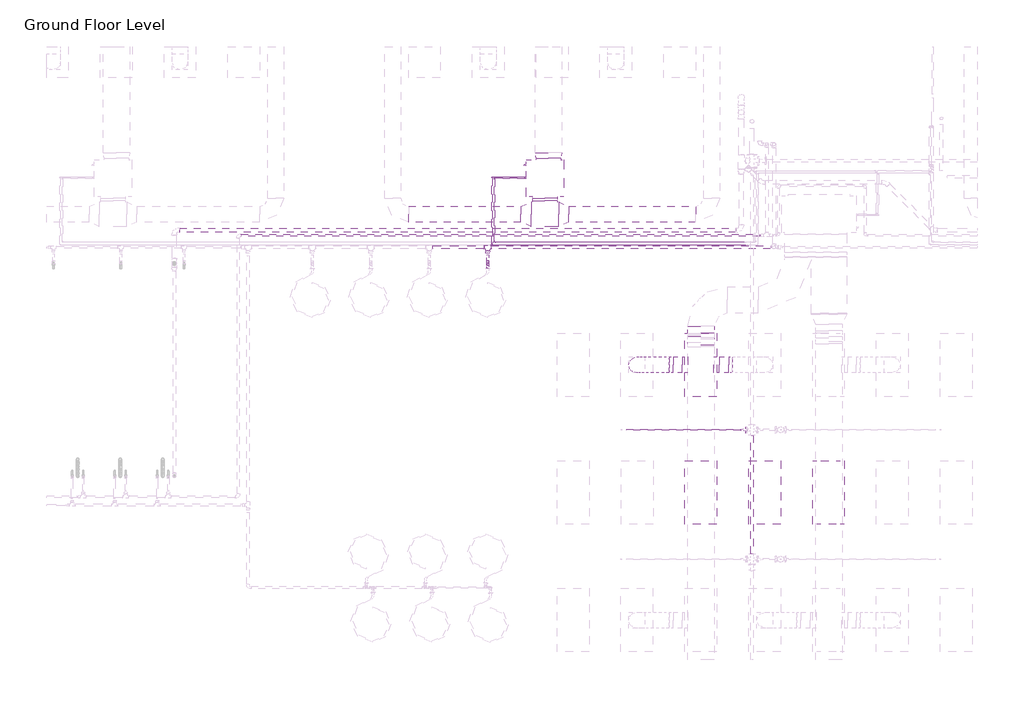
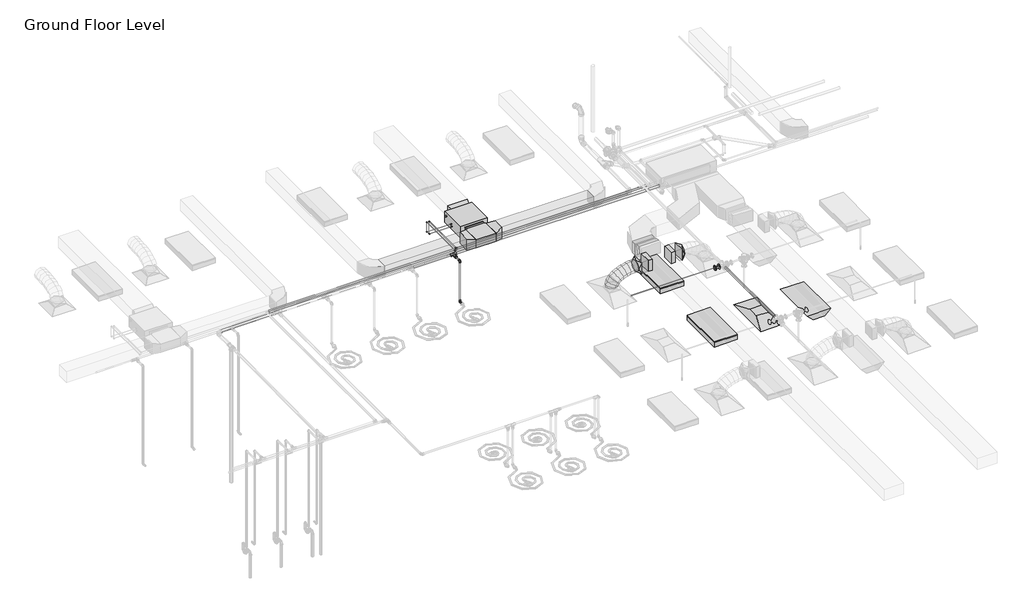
# One storey, part 48 of 74: 17 pipe segments, 11 pipe fittings, 10 duct fittings, 8 duct segments, 3 light fixtures, 1 air terminal, 1 proxy.
"""IFC4 building model written with IfcOpenShell, lengths in millimetres."""

from ifc_helpers import new_model, si_unit, point, frame, frame_2d, origin, place, context, project, spatial, polyline, circle_curve, ellipse_curve, trimmed, segment, composite_curve, outline, extrude, transform, mapped, element, save
from ifc_brep_helpers import plane_surface, cylinder_surface, advanced_brep
from components import m_return_diffuser_1200x600_1200_x_600_face_300_x_300_d1983ef6, fcu_daikin_iu_bad131e0, m_rectangular_takeoff_standard_cb0ccb98, m_rectangular_takeoff_standard_2be5eba1, m_rectangular_tee_standard_fa4de0e8, m_rectangular_transition_angle_45_degree_5a11b24e, m_rectangular_transition_angle_45_degree_27e6000f, m_rectangular_transition_angle_45_degree_1c32c0a1, m_rectangular_transition_angle_45_degree_6e5ad010, m_rectangular_to_round_transition_angle_45_degree_641efff0, m_emergency_recessed_lighting_fixture_600x1200_277_5b10b25d, m_troffer_light_parabolic_rectangular1_0600x1200mm_4_lamp_86473d4a, m_elbow_generic_standard_a088f956, m_elbow_generic_standard_2a704253, m_elbow_generic_standard_6b1a80c6, m_elbow_generic_standard_5542be81, m_reducer_flanged_cs_class_150_standard_83138b42, m_tee_generic_standard_5b2ed4d4, m_tee_generic_standard_25a94648, standard_517a5a8d, standard_cd25fed3, standard_f1337950

model = new_model("IFC4")

# Units and contexts
model_context = context("Model", 3, world=origin())
ifc_project = project(units=[si_unit("LENGTHUNIT", "METRE", prefix="MILLI")], contexts=[model_context])

# Site, building, storey
site = spatial("IfcSite", under=ifc_project)
building = spatial("IfcBuilding", under=site)
storey = spatial("IfcBuildingStorey", under=building, Name="Ground Floor Level", Elevation=900.0)

# Air terminal
placement = place(None, origin())
m_return_diffuser_1200x600_1200_x_600_face_300_x_300_shape = m_return_diffuser_1200x600_1200_x_600_face_300_x_300_d1983ef6(model_context)
element("IfcAirTerminal", 1, ObjectType="M_Return Diffuser 1200x600 : 1200 x 600 Face 300 x 300 Connection", at=placement, inside=storey, context=model_context, shape_type="MappedRepresentation", body=[
    mapped(m_return_diffuser_1200x600_1200_x_600_face_300_x_300_shape, transform((-5737.2327605, 8835.2153534, 3650.0), x_axis=(0.0, 1.0, 0.0), y_axis=(-1.0, 0.0, 0.0), z_axis=(0.0, 0.0, 1.0))),
])

# Proxy
fcu_daikin_iu_shape = fcu_daikin_iu_bad131e0(model_context)
element("IfcBuildingElementProxy", 2, Name="FCU-DAIKIN IU : 4.5kW, 230V/50Hz/1Ph", ObjectType="FCU-DAIKIN IU : 4.5kW, 230V/50Hz/1Ph", at=placement, inside=storey, context=model_context, shape_type="MappedRepresentation", body=[
    mapped(fcu_daikin_iu_shape, transform((-9872.2327605, 14745.2153534, 3934.0872564), x_axis=(-1.0, 0.0, 0.0), y_axis=(0.0, -1.0, 0.0), z_axis=(0.0, 0.0, 1.0))),
])

# Duct fittings
m_rectangular_takeoff_standard_shape = m_rectangular_takeoff_standard_cb0ccb98(model_context)
element("IfcDuctFitting", 3, ObjectType="M_Rectangular Takeoff : Standard", at=placement, inside=storey, context=model_context, shape_type="MappedRepresentation", body=[
    mapped(m_rectangular_takeoff_standard_shape, transform((-6689.6910789, 11235.2153534, 4150.0), x_axis=(1.0, 0.0, 0.0), y_axis=(0.0, -1.0, 0.0), z_axis=(0.0, 0.0, -1.0))),
])
m_rectangular_takeoff_standard_2_shape = m_rectangular_takeoff_standard_2be5eba1(model_context)
element("IfcDuctFitting", 4, ObjectType="M_Rectangular Takeoff : Standard", at=placement, inside=storey, context=model_context, shape_type="MappedRepresentation", body=[
    mapped(m_rectangular_takeoff_standard_2_shape, transform((-7189.6910789, 11235.2153534, 4150.0), x_axis=(-1.0, 0.0, 0.0), y_axis=(0.0, 1.0, 0.0), z_axis=(0.0, 0.0, -1.0))),
])
m_rectangular_tee_standard_shape = m_rectangular_tee_standard_fa4de0e8(model_context)
element("IfcDuctFitting", 5, ObjectType="M_Rectangular Tee : Standard", at=placement, inside=storey, context=model_context, shape_type="MappedRepresentation", body=[
    mapped(m_rectangular_tee_standard_shape, transform((-9872.2327605, 14069.8153534, 4075.2872564), x_axis=(-1.0, 0.0, 0.0), y_axis=(0.0, -1.0, 0.0), z_axis=(0.0, 0.0, 1.0))),
])
m_rectangular_transition_angle_45_degree_shape = m_rectangular_transition_angle_45_degree_5a11b24e(model_context)
element("IfcDuctFitting", 6, ObjectType="M_Rectangular Transition - Angle : 45 Degree", at=placement, inside=storey, context=model_context, shape_type="MappedRepresentation", body=[
    mapped(m_rectangular_transition_angle_45_degree_shape, transform((-9808.7327605, 15120.6153534, 4099.9997564), x_axis=(0.0, 1.0, 0.0), y_axis=(-1.0, 0.0, 0.0), z_axis=(0.0, 0.0, 1.0))),
])
m_rectangular_transition_angle_45_degree_2_shape = m_rectangular_transition_angle_45_degree_27e6000f(model_context)
element("IfcDuctFitting", 7, ObjectType="M_Rectangular Transition - Angle : 45 Degree", at=placement, inside=storey, context=model_context, shape_type="MappedRepresentation", body=[
    mapped(m_rectangular_transition_angle_45_degree_2_shape, transform((-9872.2327605, 14369.8153534, 4075.2872564), x_axis=(0.0, -1.0, 0.0), y_axis=(1.0, 0.0, 0.0), z_axis=(0.0, 0.0, 1.0))),
])
m_rectangular_transition_angle_45_degree_3_shape = m_rectangular_transition_angle_45_degree_1c32c0a1(model_context)
element("IfcDuctFitting", 8, ObjectType="M_Rectangular Transition - Angle : 45 Degree", at=placement, inside=storey, context=model_context, shape_type="MappedRepresentation", body=[
    mapped(m_rectangular_transition_angle_45_degree_3_shape, transform((-9872.2327605, 14326.1149854, 4075.2872564), x_axis=(0.0, -1.0, 0.0), y_axis=(1.0, 0.0, 0.0), z_axis=(0.0, 0.0, 1.0))),
])
m_rectangular_transition_angle_45_degree_4_shape = m_rectangular_transition_angle_45_degree_6e5ad010(model_context)
element("IfcDuctFitting", 9, ObjectType="M_Rectangular Transition - Angle : 45 Degree", at=placement, inside=storey, context=model_context, shape_type="MappedRepresentation", body=[
    mapped(m_rectangular_transition_angle_45_degree_4_shape, transform((-10128.1702605, 14069.8153534, 4075.2872564), x_axis=(-1.0, 0.0, 0.0), y_axis=(0.0, -1.0, 0.0), z_axis=(0.0, 0.0, 1.0))),
])
element("IfcDuctFitting", 10, ObjectType="M_Rectangular Transition - Angle : 45 Degree", at=placement, inside=storey, context=model_context, shape_type="MappedRepresentation", body=[
    mapped(m_rectangular_transition_angle_45_degree_4_shape, transform((-9616.2952605, 14069.8153534, 4075.2872564), x_axis=(1.0, 0.0, 0.0), y_axis=(0.0, 1.0, 0.0), z_axis=(0.0, 0.0, 1.0))),
])
m_rectangular_to_round_transition_angle_45_degree_shape = m_rectangular_to_round_transition_angle_45_degree_641efff0(model_context)
element("IfcDuctFitting", 11, ObjectType="M_Rectangular to Round Transition - Angle : 45 Degree", at=placement, inside=storey, context=model_context, shape_type="MappedRepresentation", body=[
    mapped(m_rectangular_to_round_transition_angle_45_degree_shape, transform((-7461.2487616, 11235.2153534, 4150.0), x_axis=(-1.0, 0.0, 0.0), y_axis=(0.0, -1.0, 0.0), z_axis=(0.0, 0.0, 1.0))),
])
element("IfcDuctFitting", 12, ObjectType="M_Rectangular to Round Transition - Angle : 45 Degree", at=placement, inside=storey, context=model_context, shape_type="MappedRepresentation", body=[
    mapped(m_rectangular_to_round_transition_angle_45_degree_shape, transform((-6418.6686918, 11235.2153534, 4150.0), x_axis=(1.0, 0.0, 0.0), y_axis=(0.0, 1.0, 0.0), z_axis=(0.0, 0.0, 1.0))),
])

# Duct segments
element("IfcDuctSegment", 13, ObjectType="Flex - Round", at=placement, inside=storey, context=model_context, shape_type="AdvancedBrep", body=[
    advanced_brep(
    [(-7992.6846929, 11235.2153534, 3826.6), (-8142.6846929, 11085.2153534, 3826.6), (-8292.6846929, 11235.2153534, 3826.6), (-8142.6846929, 11385.2153534, 3826.6), (-7992.6846929, 11235.2153534, 3832.4838104), (-8142.6846929, 11085.2153534, 3857.3049615), (-8292.6846929, 11235.2153534, 3882.1261126), (-8142.6846929, 11385.2153534, 3857.3049615), (-7990.555208, 11235.2153534, 3838.7421096), (-8126.0232883, 11085.2153534, 3906.2708192), (-8261.4913687, 11235.2153534, 3973.7995287), (-8126.0232883, 11385.2153534, 3906.2708192), (-7968.5331802, 11235.2153534, 3871.1472855), (-8080.1452707, 11085.2153534, 3973.7798261), (-8191.7573612, 11235.2153534, 4076.4123668), (-8080.1452707, 11385.2153534, 3973.7798261), (-7928.5904556, 11235.2153534, 3903.4915826), (-8011.2099341, 11085.2153534, 4029.6013814), (-8093.8294126, 11235.2153534, 4155.7111802), (-8011.2099341, 11385.2153534, 4029.6013814), (-7865.6682729, 11235.2153534, 3936.1928758), (-7925.3765727, 11085.2153534, 4074.2098454), (-7985.0848725, 11235.2153534, 4212.226815), (-7925.3765727, 11385.2153534, 4074.2098454), (-7786.815881, 11235.2153534, 3963.8479616), (-7828.8044806, 11085.2153534, 4108.0795788), (-7870.7930803, 11235.2153534, 4252.311196), (-7828.8044806, 11385.2153534, 4108.0795788), (-7700.2438983, 11235.2153534, 3984.0509494), (-7727.652952, 11085.2153534, 4131.684942), (-7755.0620057, 11235.2153534, 4279.3189347), (-7727.652952, 11385.2153534, 4131.684942), (-7613.759715, 11235.2153534, 3996.0504424), (-7628.081281, 11085.2153534, 4145.5002956), (-7642.4028469, 11235.2153534, 4294.9501488), (-7628.081281, 11385.2153534, 4145.5002956), (-7539.5984134, 11235.2153534, 4000.0), (-7543.5898089, 11085.2153534, 4150.0), (-7547.5812043, 11235.2153534, 4300.0), (-7543.5898089, 11385.2153534, 4150.0), (-7536.2487616, 11235.2153534, 4000.0), (-7536.2487616, 11385.2153534, 4150.0), (-7536.2487616, 11235.2153534, 4300.0), (-7536.2487616, 11085.2153534, 4150.0)],
    [
        (0, 1, circle_curve(frame((-8142.6846929, 11235.2153534, 3826.6), z_axis=(0.0, 0.0, -1.0), x_axis=(1.0, 0.0, 0.0)), 150.0)),
        (1, 2, circle_curve(frame((-8142.6846929, 11235.2153534, 3826.6), z_axis=(0.0, 0.0, -1.0), x_axis=(1.0, 0.0, 0.0)), 150.0)),
        (2, 3, circle_curve(frame((-8142.6846929, 11235.2153534, 3826.6), z_axis=(0.0, 0.0, -1.0), x_axis=(1.0, 0.0, 0.0)), 150.0)),
        (3, 0, circle_curve(frame((-8142.6846929, 11235.2153534, 3826.6), z_axis=(0.0, 0.0, -1.0), x_axis=(1.0, 0.0, 0.0)), 150.0)),
        (0, 4),
        (4, 5, ellipse_curve(frame((-8142.6846929, 11235.2153534, 3857.3049615), z_axis=(-0.1632543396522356, 0.0, -0.9865840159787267), x_axis=(0.9865840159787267, 0.0, -0.16325433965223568)), 152.039763, 150.0)),
        (5, 1),
        (5, 6, ellipse_curve(frame((-8142.6846929, 11235.2153534, 3857.3049615), z_axis=(-0.1632543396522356, 0.0, -0.9865840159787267), x_axis=(0.9865840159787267, 0.0, -0.16325433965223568)), 152.039763, 150.0)),
        (6, 2),
        (6, 7, ellipse_curve(frame((-8142.6846929, 11235.2153534, 3857.3049615), z_axis=(-0.1632543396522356, 0.0, -0.9865840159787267), x_axis=(0.9865840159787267, 0.0, -0.16325433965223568)), 152.039763, 150.0)),
        (7, 3),
        (7, 4, ellipse_curve(frame((-8142.6846929, 11235.2153534, 3857.3049615), z_axis=(-0.1632543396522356, 0.0, -0.9865840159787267), x_axis=(0.9865840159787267, 0.0, -0.16325433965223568)), 152.039763, 150.0)),
        (4, 8),
        (8, 9, ellipse_curve(frame((-8126.0232883, 11235.2153534, 3906.2708192), z_axis=(-0.4461280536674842, 0.0, -0.8949691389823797), x_axis=(0.8949691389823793, 0.0, -0.4461280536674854)), 151.366203, 150.0)),
        (9, 5),
        (9, 10, ellipse_curve(frame((-8126.0232883, 11235.2153534, 3906.2708192), z_axis=(-0.4461280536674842, 0.0, -0.8949691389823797), x_axis=(0.8949691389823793, 0.0, -0.4461280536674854)), 151.366203, 150.0)),
        (10, 6),
        (10, 11, ellipse_curve(frame((-8126.0232883, 11235.2153534, 3906.2708192), z_axis=(-0.4461280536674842, 0.0, -0.8949691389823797), x_axis=(0.8949691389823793, 0.0, -0.4461280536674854)), 151.366203, 150.0)),
        (11, 7),
        (11, 8, ellipse_curve(frame((-8126.0232883, 11235.2153534, 3906.2708192), z_axis=(-0.4461280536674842, 0.0, -0.8949691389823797), x_axis=(0.8949691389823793, 0.0, -0.4461280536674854)), 151.366203, 150.0)),
        (8, 12),
        (12, 13, ellipse_curve(frame((-8080.1452707, 11235.2153534, 3973.7798261), z_axis=(-0.676875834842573, 0.0, -0.7360972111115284), x_axis=(0.7360972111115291, 0.0, -0.6768758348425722)), 151.6268352, 150.0)),
        (13, 9),
        (13, 14, ellipse_curve(frame((-8080.1452707, 11235.2153534, 3973.7798261), z_axis=(-0.676875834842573, 0.0, -0.7360972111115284), x_axis=(0.7360972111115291, 0.0, -0.6768758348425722)), 151.6268352, 150.0)),
        (14, 10),
        (14, 15, ellipse_curve(frame((-8080.1452707, 11235.2153534, 3973.7798261), z_axis=(-0.676875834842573, 0.0, -0.7360972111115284), x_axis=(0.7360972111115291, 0.0, -0.6768758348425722)), 151.6268352, 150.0)),
        (15, 11),
        (15, 12, ellipse_curve(frame((-8080.1452707, 11235.2153534, 3973.7798261), z_axis=(-0.676875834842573, 0.0, -0.7360972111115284), x_axis=(0.7360972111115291, 0.0, -0.6768758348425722)), 151.6268352, 150.0)),
        (12, 16),
        (16, 17, ellipse_curve(frame((-8011.2099341, 11235.2153534, 4029.6013814), z_axis=(-0.8364738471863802, 0.0, -0.5480068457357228), x_axis=(0.5480068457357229, 0.0, -0.8364738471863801)), 150.7635884, 150.0)),
        (17, 13),
        (17, 18, ellipse_curve(frame((-8011.2099341, 11235.2153534, 4029.6013814), z_axis=(-0.8364738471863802, 0.0, -0.5480068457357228), x_axis=(0.5480068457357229, 0.0, -0.8364738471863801)), 150.7635884, 150.0)),
        (18, 14),
        (18, 19, ellipse_curve(frame((-8011.2099341, 11235.2153534, 4029.6013814), z_axis=(-0.8364738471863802, 0.0, -0.5480068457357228), x_axis=(0.5480068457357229, 0.0, -0.8364738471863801)), 150.7635884, 150.0)),
        (19, 15),
        (19, 16, ellipse_curve(frame((-8011.2099341, 11235.2153534, 4029.6013814), z_axis=(-0.8364738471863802, 0.0, -0.5480068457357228), x_axis=(0.5480068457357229, 0.0, -0.8364738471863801)), 150.7635884, 150.0)),
        (16, 20),
        (20, 21, ellipse_curve(frame((-7925.3765727, 11235.2153534, 4074.2098454), z_axis=(-0.917795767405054, 0.0, -0.3970528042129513), x_axis=(0.3970528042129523, 0.0, -0.9177957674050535)), 150.3787384, 150.0)),
        (21, 17),
        (21, 22, ellipse_curve(frame((-7925.3765727, 11235.2153534, 4074.2098454), z_axis=(-0.917795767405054, 0.0, -0.3970528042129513), x_axis=(0.3970528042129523, 0.0, -0.9177957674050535)), 150.3787384, 150.0)),
        (22, 18),
        (22, 23, ellipse_curve(frame((-7925.3765727, 11235.2153534, 4074.2098454), z_axis=(-0.917795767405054, 0.0, -0.3970528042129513), x_axis=(0.3970528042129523, 0.0, -0.9177957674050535)), 150.3787384, 150.0)),
        (23, 19),
        (23, 20, ellipse_curve(frame((-7925.3765727, 11235.2153534, 4074.2098454), z_axis=(-0.917795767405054, 0.0, -0.3970528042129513), x_axis=(0.3970528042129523, 0.0, -0.9177957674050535)), 150.3787384, 150.0)),
        (20, 24),
        (24, 25, ellipse_curve(frame((-7828.8044806, 11235.2153534, 4108.0795788), z_axis=(-0.9601411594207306, 0.0, -0.2795155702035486), x_axis=(0.27951557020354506, 0.0, -0.9601411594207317)), 150.2191795, 150.0)),
        (25, 21),
        (25, 26, ellipse_curve(frame((-7828.8044806, 11235.2153534, 4108.0795788), z_axis=(-0.9601411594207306, 0.0, -0.2795155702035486), x_axis=(0.27951557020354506, 0.0, -0.9601411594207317)), 150.2191795, 150.0)),
        (26, 22),
        (26, 27, ellipse_curve(frame((-7828.8044806, 11235.2153534, 4108.0795788), z_axis=(-0.9601411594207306, 0.0, -0.2795155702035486), x_axis=(0.27951557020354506, 0.0, -0.9601411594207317)), 150.2191795, 150.0)),
        (27, 23),
        (27, 24, ellipse_curve(frame((-7828.8044806, 11235.2153534, 4108.0795788), z_axis=(-0.9601411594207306, 0.0, -0.2795155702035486), x_axis=(0.27951557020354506, 0.0, -0.9601411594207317)), 150.2191795, 150.0)),
        (24, 28),
        (28, 29, ellipse_curve(frame((-7727.652952, 11235.2153534, 4131.684942), z_axis=(-0.9831991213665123, 0.0, -0.1825362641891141), x_axis=(0.18253626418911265, 0.0, -0.9831991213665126)), 150.1567581, 150.0)),
        (29, 25),
        (29, 30, ellipse_curve(frame((-7727.652952, 11235.2153534, 4131.684942), z_axis=(-0.9831991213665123, 0.0, -0.1825362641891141), x_axis=(0.18253626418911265, 0.0, -0.9831991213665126)), 150.1567581, 150.0)),
        (30, 26),
        (30, 31, ellipse_curve(frame((-7727.652952, 11235.2153534, 4131.684942), z_axis=(-0.9831991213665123, 0.0, -0.1825362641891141), x_axis=(0.18253626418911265, 0.0, -0.9831991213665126)), 150.1567581, 150.0)),
        (31, 27),
        (31, 28, ellipse_curve(frame((-7727.652952, 11235.2153534, 4131.684942), z_axis=(-0.9831991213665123, 0.0, -0.1825362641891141), x_axis=(0.18253626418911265, 0.0, -0.9831991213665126)), 150.1567581, 150.0)),
        (28, 32),
        (32, 33, ellipse_curve(frame((-7628.081281, 11235.2153534, 4145.5002956), z_axis=(-0.9954398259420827, 0.0, -0.09539157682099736), x_axis=(0.09539157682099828, 0.0, -0.9954398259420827)), 150.1344926, 150.0)),
        (33, 29),
        (33, 34, ellipse_curve(frame((-7628.081281, 11235.2153534, 4145.5002956), z_axis=(-0.9954398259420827, 0.0, -0.09539157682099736), x_axis=(0.09539157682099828, 0.0, -0.9954398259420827)), 150.1344926, 150.0)),
        (34, 30),
        (34, 35, ellipse_curve(frame((-7628.081281, 11235.2153534, 4145.5002956), z_axis=(-0.9954398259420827, 0.0, -0.09539157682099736), x_axis=(0.09539157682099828, 0.0, -0.9954398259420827)), 150.1344926, 150.0)),
        (35, 31),
        (35, 32, ellipse_curve(frame((-7628.081281, 11235.2153534, 4145.5002956), z_axis=(-0.9954398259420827, 0.0, -0.09539157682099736), x_axis=(0.09539157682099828, 0.0, -0.9954398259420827)), 150.1344926, 150.0)),
        (32, 36),
        (36, 37, ellipse_curve(frame((-7543.5898089, 11235.2153534, 4150.0), z_axis=(-0.9996461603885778, 0.0, -0.026599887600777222), x_axis=(0.026599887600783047, 0.0, -0.9996461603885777)), 150.0530947, 150.0)),
        (37, 33),
        (37, 38, ellipse_curve(frame((-7543.5898089, 11235.2153534, 4150.0), z_axis=(-0.9996461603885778, 0.0, -0.026599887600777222), x_axis=(0.026599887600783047, 0.0, -0.9996461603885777)), 150.0530947, 150.0)),
        (38, 34),
        (38, 39, ellipse_curve(frame((-7543.5898089, 11235.2153534, 4150.0), z_axis=(-0.9996461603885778, 0.0, -0.026599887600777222), x_axis=(0.026599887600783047, 0.0, -0.9996461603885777)), 150.0530947, 150.0)),
        (39, 35),
        (39, 36, ellipse_curve(frame((-7543.5898089, 11235.2153534, 4150.0), z_axis=(-0.9996461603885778, 0.0, -0.026599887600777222), x_axis=(0.026599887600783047, 0.0, -0.9996461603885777)), 150.0530947, 150.0)),
        (40, 41, circle_curve(frame((-7536.2487616, 11235.2153534, 4150.0), z_axis=(1.0, 0.0, 0.0), x_axis=(0.0, 0.0, -1.0)), 150.0)),
        (41, 42, circle_curve(frame((-7536.2487616, 11235.2153534, 4150.0), z_axis=(1.0, 0.0, 0.0), x_axis=(0.0, 0.0, -1.0)), 150.0)),
        (42, 43, circle_curve(frame((-7536.2487616, 11235.2153534, 4150.0), z_axis=(1.0, 0.0, 0.0), x_axis=(0.0, 0.0, -1.0)), 150.0)),
        (43, 40, circle_curve(frame((-7536.2487616, 11235.2153534, 4150.0), z_axis=(1.0, 0.0, 0.0), x_axis=(0.0, 0.0, -1.0)), 150.0)),
        (36, 40),
        (43, 37),
        (42, 38),
        (41, 39),
    ],
    [
        plane_surface(frame((-8142.6846929, 11085.2153534, 3826.6), z_axis=(0.0, 0.0, -1.0), x_axis=(1.0, 0.0, 0.0))),
        cylinder_surface(frame((-8142.6846929, 11235.2153534, 3826.6), z_axis=(0.0, 0.0, -1.0), x_axis=(1.0, 0.0, 0.0)), 150.0),
        cylinder_surface(frame((-8142.6846929, 11235.2153534, 3857.3049615), z_axis=(-0.32212824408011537, 0.0, -0.946696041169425), x_axis=(0.946696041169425, 0.0, -0.32212824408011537)), 150.0),
        cylinder_surface(frame((-8126.0232883, 11235.2153534, 3906.2708192), z_axis=(-0.5620745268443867, 0.0, -0.8270865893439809), x_axis=(0.8270865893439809, 0.0, -0.5620745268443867)), 150.0),
        cylinder_surface(frame((-8080.1452707, 11235.2153534, 3973.7798261), z_axis=(-0.777152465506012, 0.0, -0.6293123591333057), x_axis=(0.6293123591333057, 0.0, -0.777152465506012)), 150.0),
        cylinder_surface(frame((-8011.2099341, 11235.2153534, 4029.6013814), z_axis=(-0.887322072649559, 0.0, -0.4611502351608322), x_axis=(0.4611502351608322, 0.0, -0.887322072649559)), 150.0),
        cylinder_surface(frame((-7925.3765727, 11235.2153534, 4074.2098454), z_axis=(-0.9436464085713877, 0.0, -0.3309553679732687), x_axis=(0.3309553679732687, 0.0, -0.9436464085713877)), 150.0),
        cylinder_surface(frame((-7828.8044806, 11235.2153534, 4108.0795788), z_axis=(-0.9738340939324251, 0.0, -0.2272601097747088), x_axis=(0.2272601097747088, 0.0, -0.9738340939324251)), 150.0),
        cylinder_surface(frame((-7727.652952, 11235.2153534, 4131.684942), z_axis=(-0.9905113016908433, 0.0, -0.1374312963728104), x_axis=(0.1374312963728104, 0.0, -0.9905113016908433)), 150.0),
        cylinder_surface(frame((-7628.081281, 11235.2153534, 4145.5002956), z_axis=(-0.998584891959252, 0.0, -0.05318095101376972), x_axis=(0.05318095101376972, 0.0, -0.998584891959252)), 150.0),
        plane_surface(frame((-7536.2487616, 11235.2153534, 4000.0), z_axis=(1.0, 0.0, 0.0), x_axis=(0.0, 1.0, 0.0))),
        cylinder_surface(frame((-7543.5898089, 11235.2153534, 4150.0), z_axis=(-1.0, 0.0, 0.0), x_axis=(0.0, 0.0, -1.0)), 150.0),
    ],
    [
        (0, [[1, 2, 3, 4]]),
        (1, [[-1, 5, 6, 7]]),
        (1, [[-2, -7, 8, 9]]),
        (1, [[-3, -9, 10, 11]]),
        (1, [[-4, -11, 12, -5]]),
        (2, [[-6, 13, 14, 15]]),
        (2, [[-8, -15, 16, 17]]),
        (2, [[-10, -17, 18, 19]]),
        (2, [[-12, -19, 20, -13]]),
        (3, [[-14, 21, 22, 23]]),
        (3, [[-16, -23, 24, 25]]),
        (3, [[-18, -25, 26, 27]]),
        (3, [[-20, -27, 28, -21]]),
        (4, [[-22, 29, 30, 31]]),
        (4, [[-24, -31, 32, 33]]),
        (4, [[-26, -33, 34, 35]]),
        (4, [[-28, -35, 36, -29]]),
        (5, [[-30, 37, 38, 39]]),
        (5, [[-32, -39, 40, 41]]),
        (5, [[-34, -41, 42, 43]]),
        (5, [[-36, -43, 44, -37]]),
        (6, [[-38, 45, 46, 47]]),
        (6, [[-40, -47, 48, 49]]),
        (6, [[-42, -49, 50, 51]]),
        (6, [[-44, -51, 52, -45]]),
        (7, [[-46, 53, 54, 55]]),
        (7, [[-48, -55, 56, 57]]),
        (7, [[-50, -57, 58, 59]]),
        (7, [[-52, -59, 60, -53]]),
        (8, [[-54, 61, 62, 63]]),
        (8, [[-56, -63, 64, 65]]),
        (8, [[-58, -65, 66, 67]]),
        (8, [[-60, -67, 68, -61]]),
        (9, [[-62, 69, 70, 71]]),
        (9, [[-64, -71, 72, 73]]),
        (9, [[-66, -73, 74, 75]]),
        (9, [[-68, -75, 76, -69]]),
        (10, [[77, 78, 79, 80]]),
        (11, [[-70, 81, -80, 82]]),
        (11, [[-72, -82, -79, 83]]),
        (11, [[-74, -83, -78, 84]]),
        (11, [[-76, -84, -77, -81]]),
    ],
),
])
element("IfcDuctSegment", 14, ObjectType="Radius Elbows / Taps", at=placement, inside=storey, context=model_context, shape_type="SweptSolid", body=[
    extrude(outline(polyline([(-9420.8948503, 13919.8153534), (-9420.8948503, 14219.8153534), (-7037.2327605, 14219.8153534), (-7037.2327605, 13919.8153534), (-9420.8948503, 13919.8153534)])), frame((0.0, 0.0, 3925.2872564), z_axis=(0.0, 0.0, 1.0), x_axis=(1.0, 0.0, 0.0)), (0.0, 0.0, 1.0), 300.0),
])
element("IfcDuctSegment", 15, ObjectType="Radius Elbows / Taps", at=placement, inside=storey, context=model_context, shape_type="SweptSolid", body=[
    extrude(outline(polyline([(-12437.2327605, 13919.8153534), (-12437.2327605, 14219.8153534), (-10323.5706707, 14219.8153534), (-10323.5706707, 13919.8153534), (-12437.2327605, 13919.8153534)])), frame((0.0, 0.0, 3925.2872564), z_axis=(0.0, 0.0, 1.0), x_axis=(1.0, 0.0, 0.0)), (0.0, 0.0, 1.0), 300.0),
])
element("IfcDuctSegment", 16, ObjectType="Radius Elbows / Taps", at=placement, inside=storey, context=model_context, shape_type="SweptSolid", body=[
    extrude(outline(polyline([(-10103.2327605, 14369.4532214), (-9641.2327605, 14369.4532214), (-9641.2327605, 14326.1149854), (-10103.2327605, 14326.1149854), (-10103.2327605, 14369.4532214)])), frame((0.0, 0.0, 3968.2872564), z_axis=(0.0, 0.0, 1.0), x_axis=(1.0, 0.0, 0.0)), (0.0, 0.0, 1.0), 214.0),
])
element("IfcDuctSegment", 17, ObjectType="Radius Elbows / Taps", at=placement, inside=storey, context=model_context, shape_type="SweptSolid", body=[
    extrude(outline(polyline([(-7291.2910789, 11385.2153534), (-7291.2910789, 11085.2153534), (-7461.2487616, 11085.2153534), (-7461.2487616, 11385.2153534), (-7291.2910789, 11385.2153534)])), frame((0.0, 0.0, 4000.0), z_axis=(0.0, 0.0, 1.0), x_axis=(1.0, 0.0, 0.0)), (0.0, 0.0, 1.0), 300.0),
])
element("IfcDuctSegment", 18, ObjectType="Radius Elbows / Taps", at=placement, inside=storey, context=model_context, shape_type="SweptSolid", body=[
    extrude(outline(polyline([(-6588.0910789, 11085.2153534), (-6588.0910789, 11385.2153534), (-6418.6686918, 11385.2153534), (-6418.6686918, 11085.2153534), (-6588.0910789, 11085.2153534)])), frame((0.0, 0.0, 4000.0), z_axis=(0.0, 0.0, 1.0), x_axis=(1.0, 0.0, 0.0)), (0.0, 0.0, 1.0), 300.0),
])
element("IfcDuctSegment", 19, ObjectType="Radius Elbows / Taps", at=placement, inside=storey, context=model_context, shape_type="SweptSolid", body=[
    extrude(outline(polyline([(-7189.6912607, 11959.4153535), (-6689.6912607, 11959.4153535), (-6689.6912607, 11830.1369759), (-7189.6912607, 11830.1369759), (-7189.6912607, 11959.4153535)])), frame((0.0, 0.0, 3957.1399598), z_axis=(0.0, 0.0, 1.0), x_axis=(1.0, 0.0, 0.0)), (0.0, 0.0, 1.0), 300.0),
])
element("IfcDuctSegment", 20, ObjectType="Radius Elbows / Taps", at=placement, inside=storey, context=model_context, shape_type="SweptSolid", body=[
    extrude(outline(polyline([(-1e-07, -500.0), (0.0, 0.0), (119.6684185, 0.0), (119.6684185, -500.0), (-1e-07, -500.0)])), frame((-7189.6911044, 11604.9664123, 3997.3602654), z_axis=(0.0, 0.186781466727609, 0.9824014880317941), x_axis=(-9.034404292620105e-07, 0.982401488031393, -0.18678146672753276)), (0.0, 0.0, 1.0), 300.0),
])

# Light fixtures
m_emergency_recessed_lighting_fixture_600x1200_277_shape = m_emergency_recessed_lighting_fixture_600x1200_277_5b10b25d(model_context)
element("IfcLightFixture", 21, ObjectType="M_Emergency Recessed Lighting Fixture : 600x1200 - 277", at=placement, inside=storey, context=model_context, shape_type="MappedRepresentation", body=[
    mapped(m_emergency_recessed_lighting_fixture_600x1200_277_shape, transform((-4837.2327605, 8235.2153534, 3650.0), x_axis=(0.0, 1.0, 0.0), y_axis=(-1.0, 0.0, 0.0), z_axis=(0.0, 0.0, 1.0))),
])
m_troffer_light_parabolic_rectangular1_0600x1200mm_4_lamp_shape = m_troffer_light_parabolic_rectangular1_0600x1200mm_4_lamp_86473d4a(model_context)
element("IfcLightFixture", 22, ObjectType="M_Troffer Light - Parabolic Rectangular1 : 0600x1200mm(4 Lamp) - 277V 2", at=placement, inside=storey, context=model_context, shape_type="MappedRepresentation", body=[
    mapped(m_troffer_light_parabolic_rectangular1_0600x1200mm_4_lamp_shape, transform((-6996.6986926, 11253.918855, 3650.0), x_axis=(0.0, 1.0, 0.0), y_axis=(-1.0, 0.0, 0.0), z_axis=(0.0, 0.0, 1.0))),
])
element("IfcLightFixture", 23, ObjectType="M_Troffer Light - Parabolic Rectangular1 : 0600x1200mm(4 Lamp) - 277V 2", at=placement, inside=storey, context=model_context, shape_type="MappedRepresentation", body=[
    mapped(m_troffer_light_parabolic_rectangular1_0600x1200mm_4_lamp_shape, transform((-6996.6986926, 8853.918855, 3650.0), x_axis=(0.0, 1.0, 0.0), y_axis=(-1.0, 0.0, 0.0), z_axis=(0.0, 0.0, 1.0))),
])

# Pipe fittings
m_elbow_generic_standard_shape = m_elbow_generic_standard_a088f956(model_context)
element("IfcPipeFitting", 24, ObjectType="M_Elbow - Generic : Standard", at=placement, inside=storey, context=model_context, shape_type="MappedRepresentation", body=[
    mapped(m_elbow_generic_standard_shape, transform((-10820.3327605, 14745.2153534, 4380.0), x_axis=(0.0, 0.0, 1.0), y_axis=(0.0, -1.0, 0.0), z_axis=(1.0, 0.0, 0.0))),
])
m_elbow_generic_standard_2_shape = m_elbow_generic_standard_2a704253(model_context)
element("IfcPipeFitting", 25, ObjectType="M_Elbow - Generic : Standard", at=placement, inside=storey, context=model_context, shape_type="MappedRepresentation", body=[
    mapped(m_elbow_generic_standard_2_shape, transform((-10870.0192947, 14770.2153534, 4365.0), x_axis=(0.0, 0.0, 1.0), y_axis=(0.0, -1.0, 0.0), z_axis=(1.0, 0.0, 0.0))),
])
m_elbow_generic_standard_3_shape = m_elbow_generic_standard_6b1a80c6(model_context)
element("IfcPipeFitting", 26, ObjectType="M_Elbow - Generic : Standard", at=placement, inside=storey, context=model_context, shape_type="MappedRepresentation", body=[
    mapped(m_elbow_generic_standard_3_shape, transform((-10820.3359808, 14745.2153534, 4034.0996164), x_axis=(-0.9999999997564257, 0.0, 2.2071440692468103e-05), y_axis=(2.2071440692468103e-05, 0.0, 0.9999999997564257), z_axis=(0.0, 1.0, 0.0))),
])
m_elbow_generic_standard_4_shape = m_elbow_generic_standard_5542be81(model_context)
element("IfcPipeFitting", 27, ObjectType="M_Elbow - Generic : Standard", at=placement, inside=storey, context=model_context, shape_type="MappedRepresentation", body=[
    mapped(m_elbow_generic_standard_4_shape, transform((-10870.0222525, 14770.2153534, 4084.8996164), x_axis=(0.0, 0.0, -1.0), y_axis=(1.0, 0.0, 0.0), z_axis=(0.0, -1.0, 0.0))),
])
m_reducer_flanged_cs_class_150_standard_shape = m_reducer_flanged_cs_class_150_standard_83138b42(model_context)
element("IfcPipeFitting", 28, ObjectType="M_Reducer - Flanged - CS - Class 150 : Standard", at=placement, inside=storey, context=model_context, shape_type="MappedRepresentation", body=[
    mapped(m_reducer_flanged_cs_class_150_standard_shape, transform((-6080.130502, 10013.008259, 4360.0), x_axis=(-1.0, 0.0, 0.0), y_axis=(0.0, 0.0, -1.0), z_axis=(0.0, -1.0, 0.0))),
])
m_tee_generic_standard_shape = m_tee_generic_standard_5b2ed4d4(model_context)
element("IfcPipeFitting", 29, ObjectType="M_Tee - Generic : Standard", at=placement, inside=storey, context=model_context, shape_type="MappedRepresentation", body=[
    mapped(m_tee_generic_standard_shape, transform((-10820.3327605, 13545.2153534, 4380.0), x_axis=(1.0, 0.0, 0.0), y_axis=(0.0, -1.0, 0.0), z_axis=(0.0, 0.0, -1.0))),
])
m_tee_generic_standard_2_shape = m_tee_generic_standard_25a94648(model_context)
element("IfcPipeFitting", 30, ObjectType="M_Tee - Generic : Standard", at=placement, inside=storey, context=model_context, shape_type="MappedRepresentation", body=[
    mapped(m_tee_generic_standard_2_shape, transform((-10870.0192947, 13494.0185138, 4365.0), x_axis=(-1.0, 0.0, 0.0), y_axis=(0.0, -1.0, 0.0), z_axis=(0.0, 0.0, 1.0))),
])
standard_shape = standard_517a5a8d(model_context)
element("IfcPipeFitting", 31, ObjectType="M_Elbow - CPVC - Sch 40 : Standard", at=placement, inside=storey, context=model_context, shape_type="MappedRepresentation", body=[
    mapped(standard_shape, transform((-10947.2327605, 13150.8347997, 4315.0), x_axis=(0.0, 0.0, 1.0), y_axis=(0.0, 1.0, 0.0), z_axis=(-1.0, 0.0, 0.0))),
])
element("IfcPipeFitting", 32, ObjectType="M_Elbow - CPVC - Sch 40 : Standard", at=placement, inside=storey, context=model_context, shape_type="MappedRepresentation", body=[
    mapped(standard_shape, transform((-10947.2327605, 13150.8347997, 3200.0), x_axis=(0.0, 0.0, -1.0), y_axis=(0.0, -1.0, 0.0), z_axis=(-1.0, 0.0, 0.0))),
])
standard_2_shape = standard_cd25fed3(model_context)
element("IfcPipeFitting", 33, ObjectType="M_Tee - CPVC - Sch 40 : Standard", at=placement, inside=storey, context=model_context, shape_type="MappedRepresentation", body=[
    mapped(standard_2_shape, transform((-10947.2327605, 13449.9865561, 4315.0), x_axis=(1.0, 0.0, 0.0), y_axis=(0.0, 1.0, 0.0), z_axis=(0.0, 0.0, 1.0))),
])
standard_3_shape = standard_f1337950(model_context)
element("IfcPipeFitting", 34, ObjectType="M_Coupling Reducing - CPVC - Sch 40 : Standard", at=placement, inside=storey, context=model_context, shape_type="MappedRepresentation", body=[
    mapped(standard_3_shape, transform((-10947.2327605, 13383.3115561, 4315.0), x_axis=(0.0, -1.0, 0.0), y_axis=(1.0, 0.0, 0.0), z_axis=(0.0, 0.0, 1.0))),
])

# Pipe segments
element("IfcPipeSegment", 35, ObjectType="CPVC", at=placement, inside=storey, context=model_context, shape_type="SweptSolid", body=[
    extrude(outline(composite_curve([segment(trimmed(circle_curve(frame_2d((3200.0, -10947.2327605)), 16.7005), [point((3200.0, -10963.9332605))], [point((3183.2995, -10947.2327605))], False, "CARTESIAN"), True, "CONTINUOUS"), segment(trimmed(circle_curve(frame_2d((3200.0, -10947.2327605)), 16.7005), [point((3183.2995, -10947.2327605))], [point((3200.0, -10930.5322605))], False, "CARTESIAN"), True, "CONTINUOUS"), segment(trimmed(circle_curve(frame_2d((3200.0, -10947.2327605)), 16.7005), [point((3200.0, -10930.5322605))], [point((3216.7005, -10947.2327605))], False, "CARTESIAN"), True, "CONTINUOUS"), segment(trimmed(circle_curve(frame_2d((3200.0, -10947.2327605)), 16.7005), [point((3216.7005, -10947.2327605))], [point((3200.0, -10963.9332605))], False, "CARTESIAN"), True, "CONTINUOUS")], self_intersect=False)), frame((0.0, 13056.8347997, 0.0), z_axis=(0.0, 1.0, 0.0), x_axis=(0.0, 0.0, 1.0)), (0.0, 0.0, 1.0), 50.73745),
])
element("IfcPipeSegment", 36, ObjectType="CPVC", at=placement, inside=storey, context=model_context, shape_type="SweptSolid", body=[
    extrude(outline(composite_curve([segment(trimmed(circle_curve(frame_2d((4315.0, -10947.2327605)), 16.7005), [point((4315.0, -10930.5322605))], [point((4331.7005, -10947.2327605))], False, "CARTESIAN"), True, "CONTINUOUS"), segment(trimmed(circle_curve(frame_2d((4315.0, -10947.2327605)), 16.7005), [point((4331.7005, -10947.2327605))], [point((4315.0, -10963.9332605))], False, "CARTESIAN"), True, "CONTINUOUS"), segment(trimmed(circle_curve(frame_2d((4315.0, -10947.2327605)), 16.7005), [point((4315.0, -10963.9332605))], [point((4298.2995, -10947.2327605))], False, "CARTESIAN"), True, "CONTINUOUS"), segment(trimmed(circle_curve(frame_2d((4315.0, -10947.2327605)), 16.7005), [point((4298.2995, -10947.2327605))], [point((4315.0, -10930.5322605))], False, "CARTESIAN"), True, "CONTINUOUS")], self_intersect=False)), frame((0.0, 13194.0973497, 0.0), z_axis=(0.0, 1.0, 0.0), x_axis=(0.0, 0.0, 1.0)), (0.0, 0.0, 1.0), 109.4153315),
])
element("IfcPipeSegment", 37, ObjectType="CPVC", at=placement, inside=storey, context=model_context, shape_type="SweptSolid", body=[
    extrude(outline(composite_curve([segment(trimmed(circle_curve(frame_2d((-10947.2327605, 13150.8347997)), 16.7005), [point((-10963.9332605, 13150.8347997))], [point((-10947.2327605, 13167.5352997))], False, "CARTESIAN"), True, "CONTINUOUS"), segment(trimmed(circle_curve(frame_2d((-10947.2327605, 13150.8347997)), 16.7005), [point((-10947.2327605, 13167.5352997))], [point((-10930.5322605, 13150.8347997))], False, "CARTESIAN"), True, "CONTINUOUS"), segment(trimmed(circle_curve(frame_2d((-10947.2327605, 13150.8347997)), 16.7005), [point((-10930.5322605, 13150.8347997))], [point((-10947.2327605, 13134.1342997))], False, "CARTESIAN"), True, "CONTINUOUS"), segment(trimmed(circle_curve(frame_2d((-10947.2327605, 13150.8347997)), 16.7005), [point((-10947.2327605, 13134.1342997))], [point((-10963.9332605, 13150.8347997))], False, "CARTESIAN"), True, "CONTINUOUS")], self_intersect=False)), frame((0.0, 0.0, 3243.26255), z_axis=(0.0, 0.0, 1.0), x_axis=(1.0, 0.0, 0.0)), (0.0, 0.0, 1.0), 1028.4749),
])
element("IfcPipeSegment", 38, ObjectType="CPVC", at=placement, inside=storey, context=model_context, shape_type="SweptSolid", body=[
    extrude(outline(composite_curve([segment(trimmed(circle_curve(frame_2d((13449.9865561, 4315.0)), 30.1625), [point((13419.8240561, 4315.0))], [point((13449.9865561, 4345.1625))], False, "CARTESIAN"), True, "CONTINUOUS"), segment(trimmed(circle_curve(frame_2d((13449.9865561, 4315.0)), 30.1625), [point((13449.9865561, 4345.1625))], [point((13480.1490561, 4315.0))], False, "CARTESIAN"), True, "CONTINUOUS"), segment(trimmed(circle_curve(frame_2d((13449.9865561, 4315.0)), 30.1625), [point((13480.1490561, 4315.0))], [point((13449.9865561, 4284.8375))], False, "CARTESIAN"), True, "CONTINUOUS"), segment(trimmed(circle_curve(frame_2d((13449.9865561, 4315.0)), 30.1625), [point((13449.9865561, 4284.8375))], [point((13419.8240561, 4315.0))], False, "CARTESIAN"), True, "CONTINUOUS")], self_intersect=False)), frame((-11980.5577605, 0.0, 0.0), z_axis=(1.0, 0.0, 0.0), x_axis=(0.0, 1.0, 0.0)), (0.0, 0.0, 1.0), 966.65),
])
element("IfcPipeSegment", 39, ObjectType="CPVC", at=placement, inside=storey, context=model_context, shape_type="SweptSolid", body=[
    extrude(outline(composite_curve([segment(trimmed(circle_curve(frame_2d((13675.2153534, 4250.0)), 21.082), [point((13654.1333534, 4250.0))], [point((13675.2153534, 4271.082))], False, "CARTESIAN"), True, "CONTINUOUS"), segment(trimmed(circle_curve(frame_2d((13675.2153534, 4250.0)), 21.082), [point((13675.2153534, 4271.082))], [point((13696.2973534, 4250.0))], False, "CARTESIAN"), True, "CONTINUOUS"), segment(trimmed(circle_curve(frame_2d((13675.2153534, 4250.0)), 21.082), [point((13696.2973534, 4250.0))], [point((13675.2153534, 4228.918))], False, "CARTESIAN"), True, "CONTINUOUS"), segment(trimmed(circle_curve(frame_2d((13675.2153534, 4250.0)), 21.082), [point((13675.2153534, 4228.918))], [point((13654.1333534, 4250.0))], False, "CARTESIAN"), True, "CONTINUOUS")], self_intersect=False)), frame((-15584.8736174, 0.0, 0.0), z_axis=(1.0, 0.0, 0.0), x_axis=(0.0, 1.0, 0.0)), (0.0, 0.0, 1.0), 9750.0786527),
])
element("IfcPipeSegment", 40, ObjectType="CPVC", at=placement, inside=storey, context=model_context, shape_type="SweptSolid", body=[
    extrude(outline(composite_curve([segment(trimmed(circle_curve(frame_2d((13449.9865561, 4315.0)), 30.1625), [point((13419.8240561, 4315.0))], [point((13449.9865561, 4345.1625))], False, "CARTESIAN"), True, "CONTINUOUS"), segment(trimmed(circle_curve(frame_2d((13449.9865561, 4315.0)), 30.1625), [point((13449.9865561, 4345.1625))], [point((13480.1490561, 4315.0))], False, "CARTESIAN"), True, "CONTINUOUS"), segment(trimmed(circle_curve(frame_2d((13449.9865561, 4315.0)), 30.1625), [point((13480.1490561, 4315.0))], [point((13449.9865561, 4284.8375))], False, "CARTESIAN"), True, "CONTINUOUS"), segment(trimmed(circle_curve(frame_2d((13449.9865561, 4315.0)), 30.1625), [point((13449.9865561, 4284.8375))], [point((13419.8240561, 4315.0))], False, "CARTESIAN"), True, "CONTINUOUS")], self_intersect=False)), frame((-10880.5577605, 0.0, 0.0), z_axis=(1.0, 0.0, 0.0), x_axis=(0.0, 1.0, 0.0)), (0.0, 0.0, 1.0), 5253.0113849),
])
element("IfcPipeSegment", 41, ObjectType="Copper", at=placement, inside=storey, context=model_context, shape_type="SweptSolid", body=[
    extrude(outline(composite_curve([segment(trimmed(circle_curve(frame_2d((0.0, -3.35)), 3.35), [point((-3.35, -3.35))], [point((0.0, 0.0))], False, "CARTESIAN"), True, "CONTINUOUS"), segment(trimmed(circle_curve(frame_2d((0.0, -3.35)), 3.35), [point((0.0, 0.0))], [point((3.35, -3.35))], False, "CARTESIAN"), True, "CONTINUOUS"), segment(trimmed(circle_curve(frame_2d((0.0, -3.35)), 3.35), [point((3.35, -3.35))], [point((0.0, -6.7))], False, "CARTESIAN"), True, "CONTINUOUS"), segment(trimmed(circle_curve(frame_2d((0.0, -3.35)), 3.35), [point((0.0, -6.7))], [point((-3.35, -3.35))], False, "CARTESIAN"), True, "CONTINUOUS")], self_intersect=False)), frame((-10260.3328284, 14770.2153534, 4081.5372564), z_axis=(-0.9999999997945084, 0.0, 2.0272724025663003e-05), x_axis=(0.0, 1.0, 0.0)), (0.0, 0.0, 1.0), 598.5522179),
])
element("IfcPipeSegment", 42, ObjectType="Copper", at=placement, inside=storey, context=model_context, shape_type="SweptSolid", body=[
    extrude(outline(composite_curve([segment(trimmed(circle_curve(frame_2d((4365.0, -10870.0192947)), 3.35), [point((4365.0, -10873.3692947))], [point((4361.65, -10870.0192947))], False, "CARTESIAN"), True, "CONTINUOUS"), segment(trimmed(circle_curve(frame_2d((4365.0, -10870.0192947)), 3.35), [point((4361.65, -10870.0192947))], [point((4365.0, -10866.6692947))], False, "CARTESIAN"), True, "CONTINUOUS"), segment(trimmed(circle_curve(frame_2d((4365.0, -10870.0192947)), 3.35), [point((4365.0, -10866.6692947))], [point((4368.35, -10870.0192947))], False, "CARTESIAN"), True, "CONTINUOUS"), segment(trimmed(circle_curve(frame_2d((4365.0, -10870.0192947)), 3.35), [point((4368.35, -10870.0192947))], [point((4365.0, -10873.3692947))], False, "CARTESIAN"), True, "CONTINUOUS")], self_intersect=False)), frame((0.0, 13511.5060138, 0.0), z_axis=(0.0, 1.0, 0.0), x_axis=(0.0, 0.0, 1.0)), (0.0, 0.0, 1.0), 1247.5718396),
])
element("IfcPipeSegment", 43, ObjectType="Copper", at=placement, inside=storey, context=model_context, shape_type="SweptSolid", body=[
    extrude(outline(composite_curve([segment(trimmed(circle_curve(frame_2d((0.0, -3.35)), 3.35), [point((-3.35, -3.35))], [point((0.0, 0.0))], False, "CARTESIAN"), True, "CONTINUOUS"), segment(trimmed(circle_curve(frame_2d((0.0, -3.35)), 3.35), [point((0.0, 0.0))], [point((3.35, -3.35))], False, "CARTESIAN"), True, "CONTINUOUS"), segment(trimmed(circle_curve(frame_2d((0.0, -3.35)), 3.35), [point((3.35, -3.35))], [point((0.0, -6.7))], False, "CARTESIAN"), True, "CONTINUOUS"), segment(trimmed(circle_curve(frame_2d((0.0, -3.35)), 3.35), [point((0.0, -6.7))], [point((-3.35, -3.35))], False, "CARTESIAN"), True, "CONTINUOUS")], self_intersect=False)), frame((-10870.0222525, 14766.8653534, 4096.0368906), z_axis=(1.1472088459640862e-05, 0.0, 0.9999999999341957), x_axis=(-0.9999999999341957, 0.0, 1.1472088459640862e-05)), (0.0, 0.0, 1.0), 257.8256094),
])
element("IfcPipeSegment", 44, ObjectType="Copper", at=placement, inside=storey, context=model_context, shape_type="SweptSolid", body=[
    extrude(outline(composite_curve([segment(trimmed(circle_curve(frame_2d((0.0, 6.5)), 6.5), [point((-6.5, 6.5))], [point((0.0, 13.0))], False, "CARTESIAN"), True, "CONTINUOUS"), segment(trimmed(circle_curve(frame_2d((0.0, 6.5)), 6.5), [point((0.0, 13.0))], [point((6.5, 6.5))], False, "CARTESIAN"), True, "CONTINUOUS"), segment(trimmed(circle_curve(frame_2d((0.0, 6.5)), 6.5), [point((6.5, 6.5))], [point((0.0, 0.0))], False, "CARTESIAN"), True, "CONTINUOUS"), segment(trimmed(circle_curve(frame_2d((0.0, 6.5)), 6.5), [point((0.0, 0.0))], [point((-6.5, 6.5))], False, "CARTESIAN"), True, "CONTINUOUS")], self_intersect=False)), frame((-10260.332904, 14745.2153534, 4027.5872564), z_axis=(-0.9999999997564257, 0.0, 2.2071440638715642e-05), x_axis=(0.0, -1.0, 0.0)), (0.0, 0.0, 1.0), 545.7160357),
])
element("IfcPipeSegment", 45, ObjectType="Copper", at=placement, inside=storey, context=model_context, shape_type="SweptSolid", body=[
    extrude(outline(composite_curve([segment(trimmed(circle_curve(frame_2d((0.0, 6.5)), 6.5), [point((-6.4999999, 6.5))], [point((0.0, 13.0))], False, "CARTESIAN"), True, "CONTINUOUS"), segment(trimmed(circle_curve(frame_2d((0.0, 6.5)), 6.5), [point((0.0, 13.0))], [point((6.5, 6.5))], False, "CARTESIAN"), True, "CONTINUOUS"), segment(trimmed(circle_curve(frame_2d((0.0, 6.5)), 6.5), [point((6.5, 6.5))], [point((0.0, 0.0))], False, "CARTESIAN"), True, "CONTINUOUS"), segment(trimmed(circle_curve(frame_2d((0.0, 6.5)), 6.5), [point((0.0, 0.0))], [point((-6.4999999, 6.5))], False, "CARTESIAN"), True, "CONTINUOUS")], self_intersect=False)), frame((-10820.3359808, 14738.7153534, 4048.3868011), z_axis=(1.0148033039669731e-05, 0.0, 0.9999999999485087), x_axis=(0.9999999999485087, 0.0, -1.0148033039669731e-05)), (0.0, 0.0, 1.0), 317.3256989),
])
element("IfcPipeSegment", 46, ObjectType="Copper", at=placement, inside=storey, context=model_context, shape_type="SweptSolid", body=[
    extrude(outline(composite_curve([segment(trimmed(circle_curve(frame_2d((4380.0, -10820.3327605)), 6.5), [point((4380.0, -10826.8327605))], [point((4373.5, -10820.3327605))], False, "CARTESIAN"), True, "CONTINUOUS"), segment(trimmed(circle_curve(frame_2d((4380.0, -10820.3327605)), 6.5), [point((4373.5, -10820.3327605))], [point((4380.0, -10813.8327605))], False, "CARTESIAN"), True, "CONTINUOUS"), segment(trimmed(circle_curve(frame_2d((4380.0, -10820.3327605)), 6.5), [point((4380.0, -10813.8327605))], [point((4386.5, -10820.3327605))], False, "CARTESIAN"), True, "CONTINUOUS"), segment(trimmed(circle_curve(frame_2d((4380.0, -10820.3327605)), 6.5), [point((4386.5, -10820.3327605))], [point((4380.0, -10826.8327605))], False, "CARTESIAN"), True, "CONTINUOUS")], self_intersect=False)), frame((0.0, 13565.8528534, 0.0), z_axis=(0.0, 1.0, 0.0), x_axis=(0.0, 0.0, 1.0)), (0.0, 0.0, 1.0), 1165.075),
])
element("IfcPipeSegment", 47, ObjectType="Copper", at=placement, inside=storey, context=model_context, shape_type="SweptSolid", body=[
    extrude(outline(composite_curve([segment(trimmed(circle_curve(frame_2d((13545.2153534, 4380.0)), 6.5), [point((13538.7153534, 4380.0))], [point((13545.2153534, 4386.5))], False, "CARTESIAN"), True, "CONTINUOUS"), segment(trimmed(circle_curve(frame_2d((13545.2153534, 4380.0)), 6.5), [point((13545.2153534, 4386.5))], [point((13551.7153534, 4380.0))], False, "CARTESIAN"), True, "CONTINUOUS"), segment(trimmed(circle_curve(frame_2d((13545.2153534, 4380.0)), 6.5), [point((13551.7153534, 4380.0))], [point((13545.2153534, 4373.5))], False, "CARTESIAN"), True, "CONTINUOUS"), segment(trimmed(circle_curve(frame_2d((13545.2153534, 4380.0)), 6.5), [point((13545.2153534, 4373.5))], [point((13538.7153534, 4380.0))], False, "CARTESIAN"), True, "CONTINUOUS")], self_intersect=False)), frame((-10799.6952605, 0.0, 0.0), z_axis=(1.0, 0.0, 0.0), x_axis=(0.0, 1.0, 0.0)), (0.0, 0.0, 1.0), 4693.638441),
])
element("IfcPipeSegment", 48, ObjectType="Copper", at=placement, inside=storey, context=model_context, shape_type="SweptSolid", body=[
    extrude(outline(composite_curve([segment(trimmed(circle_curve(frame_2d((13494.0185138, 4365.0)), 3.35), [point((13490.6685138, 4365.0))], [point((13494.0185138, 4368.35))], False, "CARTESIAN"), True, "CONTINUOUS"), segment(trimmed(circle_curve(frame_2d((13494.0185138, 4365.0)), 3.35), [point((13494.0185138, 4368.35))], [point((13497.3685138, 4365.0))], False, "CARTESIAN"), True, "CONTINUOUS"), segment(trimmed(circle_curve(frame_2d((13494.0185138, 4365.0)), 3.35), [point((13497.3685138, 4365.0))], [point((13494.0185138, 4361.65))], False, "CARTESIAN"), True, "CONTINUOUS"), segment(trimmed(circle_curve(frame_2d((13494.0185138, 4365.0)), 3.35), [point((13494.0185138, 4361.65))], [point((13490.6685138, 4365.0))], False, "CARTESIAN"), True, "CONTINUOUS")], self_intersect=False)), frame((-10852.5317947, 0.0, 0.0), z_axis=(1.0, 0.0, 0.0), x_axis=(0.0, 1.0, 0.0)), (0.0, 0.0, 1.0), 4777.0536918),
])
element("IfcPipeSegment", 49, ObjectType="PVC - DWV", at=placement, inside=storey, context=model_context, shape_type="SweptSolid", body=[
    extrude(outline(composite_curve([segment(trimmed(circle_curve(frame_2d((0.0, 36.5125)), 36.5125), [point((0.0, 0.0))], [point((-36.5125, 36.5125))], False, "CARTESIAN"), True, "CONTINUOUS"), segment(trimmed(circle_curve(frame_2d((0.0, 36.5125)), 36.5125), [point((-36.5125, 36.5125))], [point((0.0, 73.025))], False, "CARTESIAN"), True, "CONTINUOUS"), segment(trimmed(circle_curve(frame_2d((0.0, 36.5125)), 36.5125), [point((0.0, 73.025))], [point((36.5125, 36.5125))], False, "CARTESIAN"), True, "CONTINUOUS"), segment(trimmed(circle_curve(frame_2d((0.0, 36.5125)), 36.5125), [point((36.5125, 36.5125))], [point((0.0, 0.0))], False, "CARTESIAN"), True, "CONTINUOUS")], self_intersect=False)), frame((-16745.3067515, 13732.2923932, 4051.2669274), z_axis=(0.9999500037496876, 0.0, 0.00999950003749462), x_axis=(0.00999950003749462, 0.0, -0.9999500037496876)), (0.0, 0.0, 1.0), 10467.6468574),
])
element("IfcPipeSegment", 50, ObjectType="Steel flanged", at=placement, inside=storey, context=model_context, shape_type="SweptSolid", body=[
    extrude(outline(composite_curve([segment(trimmed(circle_curve(frame_2d((10013.008259, 4360.0)), 10.668), [point((10002.340259, 4360.0))], [point((10013.008259, 4370.668))], False, "CARTESIAN"), True, "CONTINUOUS"), segment(trimmed(circle_curve(frame_2d((10013.008259, 4360.0)), 10.668), [point((10013.008259, 4370.668))], [point((10023.676259, 4360.0))], False, "CARTESIAN"), True, "CONTINUOUS"), segment(trimmed(circle_curve(frame_2d((10013.008259, 4360.0)), 10.668), [point((10023.676259, 4360.0))], [point((10013.008259, 4349.332))], False, "CARTESIAN"), True, "CONTINUOUS"), segment(trimmed(circle_curve(frame_2d((10013.008259, 4360.0)), 10.668), [point((10013.008259, 4349.332))], [point((10002.340259, 4360.0))], False, "CARTESIAN"), True, "CONTINUOUS")], self_intersect=False)), frame((-8344.2241668, 0.0, 0.0), z_axis=(1.0, 0.0, 0.0), x_axis=(0.0, 1.0, 0.0)), (0.0, 0.0, 1.0), 2150.0936648),
])
element("IfcPipeSegment", 51, ObjectType="Steel flanged", at=placement, inside=storey, context=model_context, shape_type="SweptSolid", body=[
    extrude(outline(composite_curve([segment(trimmed(circle_curve(frame_2d((4360.0, -5978.130502)), 24.13), [point((4360.0, -6002.260502))], [point((4335.87, -5978.130502))], False, "CARTESIAN"), True, "CONTINUOUS"), segment(trimmed(circle_curve(frame_2d((4360.0, -5978.130502)), 24.13), [point((4335.87, -5978.130502))], [point((4360.0, -5954.000502))], False, "CARTESIAN"), True, "CONTINUOUS"), segment(trimmed(circle_curve(frame_2d((4360.0, -5978.130502)), 24.13), [point((4360.0, -5954.000502))], [point((4384.13, -5978.130502))], False, "CARTESIAN"), True, "CONTINUOUS"), segment(trimmed(circle_curve(frame_2d((4360.0, -5978.130502)), 24.13), [point((4384.13, -5978.130502))], [point((4360.0, -6002.260502))], False, "CARTESIAN"), True, "CONTINUOUS")], self_intersect=False)), frame((0.0, 7684.7040742, 0.0), z_axis=(0.0, 1.0, 0.0), x_axis=(0.0, 0.0, 1.0)), (0.0, 0.0, 1.0), 2226.3041848),
])

save(model, "model.ifc")
